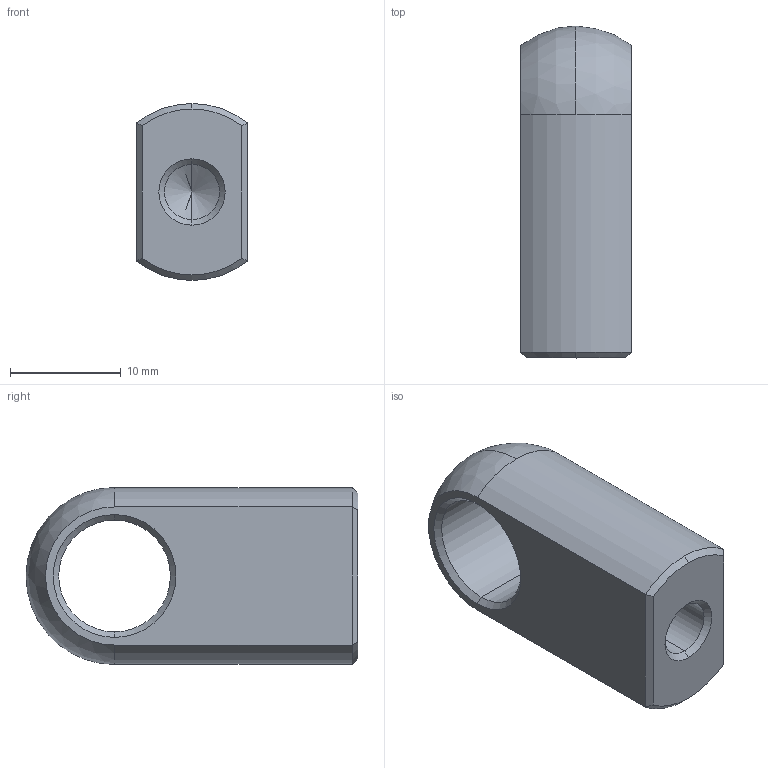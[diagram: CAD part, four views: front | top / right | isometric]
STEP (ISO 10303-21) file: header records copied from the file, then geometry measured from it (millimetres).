
FILE_DESCRIPTION (( 'STEP AP214' ), '1' );
FILE_NAME ('18.06A1L22SP.STEP', '2017-11-09T12:12:13', ( '' ), ( '' ), 'SwSTEP 2.0', 'SolidWorks 2016', '' );
FILE_SCHEMA (( 'AUTOMOTIVE_DESIGN' ));
Length unit declared in the file: millimetre
Products named in the file (1): 18.06A1L22SP
Bounding box: 10 x 30 x 16 mm (x, y, z)
Volume: 3077.1 mm3; surface area: 1868.1 mm2
Topology: 1 solids, 1 shells, 25 faces, 57 edges, 33 vertices
Faces by surface type: cone 11, cylinder 7, plane 5, sphere 2
Entity records: 732 total; most frequent: DIRECTION 132, CARTESIAN_POINT 126, ORIENTED_EDGE 110, EDGE_CURVE 55, AXIS2_PLACEMENT_3D 55, VERTEX_POINT 33, CIRCLE 29, EDGE_LOOP 28
